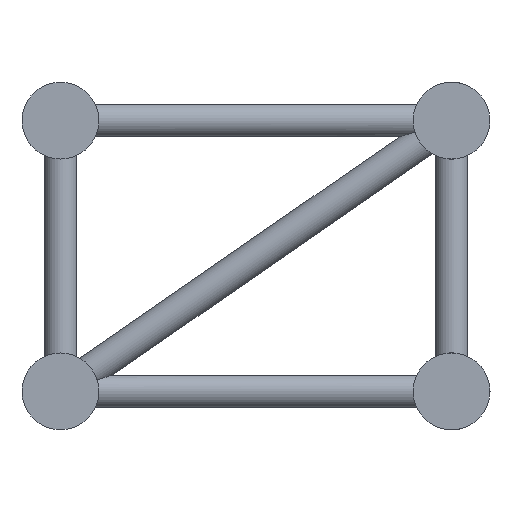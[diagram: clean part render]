
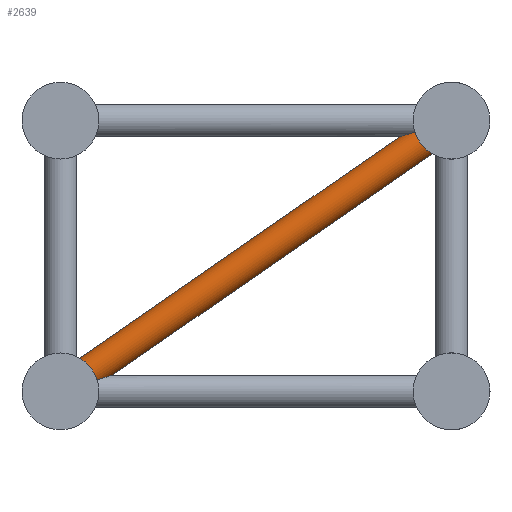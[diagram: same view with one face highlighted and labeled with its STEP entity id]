
A CAD part, left-side view. The second image highlights one B-rep face of the part: STEP entity #2639.
In plain terms, the highlighted cylindrical face has radius 12.5 mm (diameter 25 mm), a full revolution.
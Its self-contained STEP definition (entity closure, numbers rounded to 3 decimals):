
#22=ELLIPSE('',#2879,41.923,12.5);
#23=ELLIPSE('',#2881,41.923,12.5);
#108=FACE_BOUND('',#693,.T.);
#429=FACE_OUTER_BOUND('',#692,.T.);
#692=EDGE_LOOP('',(#1916,#1917));
#693=EDGE_LOOP('',(#1918,#1919));
#966=CIRCLE('',#2880,12.5);
#967=CIRCLE('',#2882,12.5);
#1286=VERTEX_POINT('',#6181);
#1287=VERTEX_POINT('',#6182);
#1288=VERTEX_POINT('',#6185);
#1289=VERTEX_POINT('',#6186);
#1516=EDGE_CURVE('',#1286,#1287,#22,.T.);
#1517=EDGE_CURVE('',#1287,#1286,#966,.T.);
#1518=EDGE_CURVE('',#1288,#1289,#23,.T.);
#1519=EDGE_CURVE('',#1289,#1288,#967,.T.);
#1916=ORIENTED_EDGE('',*,*,#1516,.F.);
#1917=ORIENTED_EDGE('',*,*,#1517,.F.);
#1918=ORIENTED_EDGE('',*,*,#1518,.F.);
#1919=ORIENTED_EDGE('',*,*,#1519,.F.);
#2348=CYLINDRICAL_SURFACE('',#2878,12.5);
#2639=ADVANCED_FACE('',(#429,#108),#2348,.T.);
#2878=AXIS2_PLACEMENT_3D('',#6180,#3359,#3360);
#2879=AXIS2_PLACEMENT_3D('',#6183,#3361,#3362);
#2880=AXIS2_PLACEMENT_3D('',#6184,#3363,#3364);
#2881=AXIS2_PLACEMENT_3D('',#6187,#3365,#3366);
#2882=AXIS2_PLACEMENT_3D('',#6188,#3367,#3368);
#3359=DIRECTION('center_axis',(0.,-0.822,
0.569));
#3360=DIRECTION('ref_axis',(1.,0.,0.));
#3361=DIRECTION('center_axis',(0.,0.298,
0.955));
#3362=DIRECTION('ref_axis',(0.,0.955,-0.298));
#3363=DIRECTION('center_axis',(0.,-0.822,
0.569));
#3364=DIRECTION('ref_axis',(1.,0.,0.));
#3365=DIRECTION('center_axis',(0.,-0.298,
-0.955));
#3366=DIRECTION('ref_axis',(0.,0.955,-0.298));
#3367=DIRECTION('center_axis',(0.,0.822,-0.569));
#3368=DIRECTION('ref_axis',(1.,0.,0.));
#6180=CARTESIAN_POINT('Origin',(92.5,278.173,-192.581));
#6181=CARTESIAN_POINT('',(102.177,25.331,-7.913));
#6182=CARTESIAN_POINT('',(82.823,25.331,-7.913));
#6183=CARTESIAN_POINT('Origin',(92.5,0.,0.));
#6184=CARTESIAN_POINT('Origin',(92.5,20.827,-14.419));
#6185=CARTESIAN_POINT('',(102.177,273.669,-199.087));
#6186=CARTESIAN_POINT('',(82.823,273.669,-199.087));
#6187=CARTESIAN_POINT('Origin',(92.5,299.,-207.));
#6188=CARTESIAN_POINT('Origin',(92.5,278.173,-192.581));
